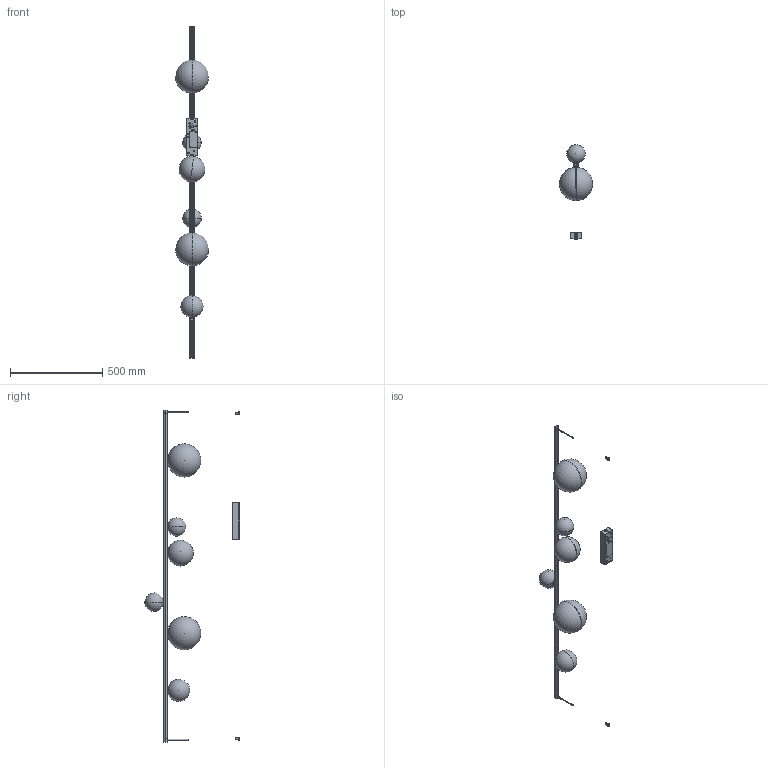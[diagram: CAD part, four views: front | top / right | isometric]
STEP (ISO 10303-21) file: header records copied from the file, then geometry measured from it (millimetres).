
FILE_DESCRIPTION (( 'STEP AP214' ), '1' );
FILE_NAME ('Random Stick XL.STEP', '2026-06-11T09:47:42', ( '' ), ( '' ), 'SwSTEP 2.0', 'SolidWorks 2025', '' );
FILE_SCHEMA (( 'AUTOMOTIVE_DESIGN' ));
Length unit declared in the file: millimetre
Products named in the file (47): 234M007_00; 234M014_00; GRA-EI_EP_GRA-100; 234Z001_27; LED-0224_2700K; 234M009_00; MIN-0244_Steab 5465; VIT-TSP_EI_VIT-0008; V200078_Rev01; VIT-TSP_IC_VIT-0078; Cover15_Rev00; 234Z003_00; LNS-0012_00; MIN-0064_Forcella; LED-0225_00; 234M003_00; THE-00XX_00; TRA-0253_00; 234M012_00; 234Z002_12; LED-Luxe15-1_350mA_2700k con cavi 560mm; 234M001_180; GRA-EI_EC_GRA-109; 234M004_00; RAN-Dent_Con_RAN-107; 234P001_00; 234Z002_14; 234M010_00; RAN-Dent_Est_RAN-102; V200077_Rev00; VIT-TSP_IC_VIT-0055; 234M011_00; Random Stick XL; V200079_Rev01; 234M005_00; 234Z002_18; 234Z002_10; MOR-0045; DAD-DadiEsagonali_DAD-103; GRA-017_GRA-017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
Assembly tree (97 placements, depth 4):
  Random Stick XL
    234M001_180
    234Z002_14
      234M002_00
      LED-Luxe15-1_350mA_2700k con cavi 560mm
        LED-0224_2700K
        Cover15_Rev00
        THE-00XX_00
      234M006_00
      234M004_00
      234M005_00
      234M003_00
      V200078_Rev01
      GRA-EI_EP_GRA-100  x2
      234P001_00
    234Z002_18  x2
      234M002_00
      LED-Luxe15-1_350mA_2700k con cavi 560mm
        LED-0224_2700K
        Cover15_Rev00
        THE-00XX_00
      234M006_00
      234M004_00
      234M005_00
      234M003_00
      V200077_Rev00
      GRA-EI_EP_GRA-100
      234P001_00
    234Z001_27  x3
      LNS-0012_00
      234M007_00
      LED-0225_00
      VIT-TSP_EI_VIT-0008
    234M008_00  x2
    234M009_00  x2
    234Z003_00
      234M010_00
      234M011_00
      TRA-0253_00
      Morsetto a vite Mammut_M093H_MOR-015 x 3
      MIN-0243_Steab_5475-3-07  x2
      MIN-0244_Steab 5465  x2
      GRA-017_GRA-017  x2
      MIN-0064_Forcella
      VIT-TSP_IC_VIT-0055  x3
      VIT-TSP_IC_VIT-0078
      RAN-Dent_Est_RAN-102
      DAD-DadiEsagonali_DAD-103  x4
      VIT-TSP_EI_VIT-0008  x2
      RAN-Dent_Con_RAN-107
      MOR-0045  x2
    234M014_00  x2
    234M012_00  x2
    GRA-010_Steab 5068-10-16  x2
    GRA-EI_EC_GRA-109  x2
    234Z002_12
      234M002_00
      LED-Luxe15-1_350mA_2700k con cavi 560mm
        LED-0224_2700K
        Cover15_Rev00
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Bounding box: 180 x 511.46 x 1799 mm (x, y, z)
Volume: 1130390.2 mm3; surface area: 1146290.3 mm2
Topology: 182 solids, 182 shells, 5716 faces, 14334 edges, 8920 vertices
Faces by surface type: plane 2372, cylinder 1605, bspline 962, cone 643, torus 86, sphere 48
Entity records: 63832 total; most frequent: CARTESIAN_POINT 22464, ORIENTED_EDGE 8494, DIRECTION 7788, EDGE_CURVE 4247, AXIS2_PLACEMENT_3D 2756, VERTEX_POINT 2688, VECTOR 2276, LINE 2276
